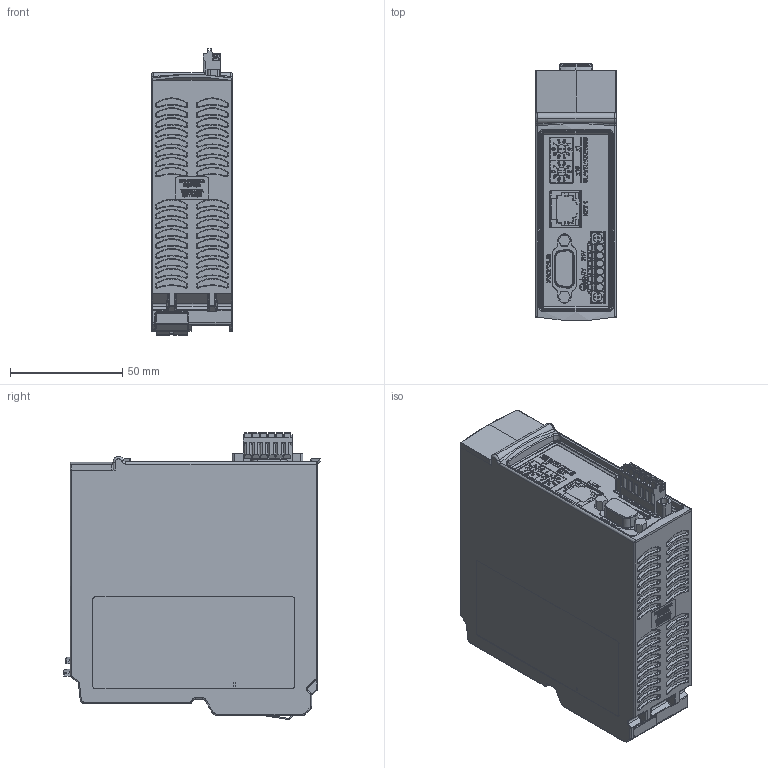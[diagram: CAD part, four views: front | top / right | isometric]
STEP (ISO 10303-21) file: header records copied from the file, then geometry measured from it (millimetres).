
FILE_DESCRIPTION (( 'STEP AP214' ), '1' );
FILE_NAME ('NX5110_20160915.STEP', '2016-09-15T18:03:28', ( 'ALTUS' ), ( '' ), 'SwSTEP 2.0', 'SolidWorks 2011', '' );
FILE_SCHEMA (( 'AUTOMOTIVE_DESIGN' ));
Length unit declared in the file: millimetre
Products named in the file (1): NX5110_20160915
Bounding box: 36 x 114.46 x 127.79 mm (x, y, z)
Volume: 406553.7 mm3; surface area: 56079.5 mm2
Topology: 2 solids, 15 shells, 4688 faces, 12230 edges, 7848 vertices
Faces by surface type: plane 2164, bspline 1438, cylinder 613, torus 240, cone 223, sphere 10
Entity records: 220756 total; most frequent: CARTESIAN_POINT 64394, ORIENTED_EDGE 24422, DIRECTION 17450, EDGE_CURVE 12211, VERTEX_POINT 7846, LINE 6680, VECTOR 6680, AXIS2_PLACEMENT_3D 5385
